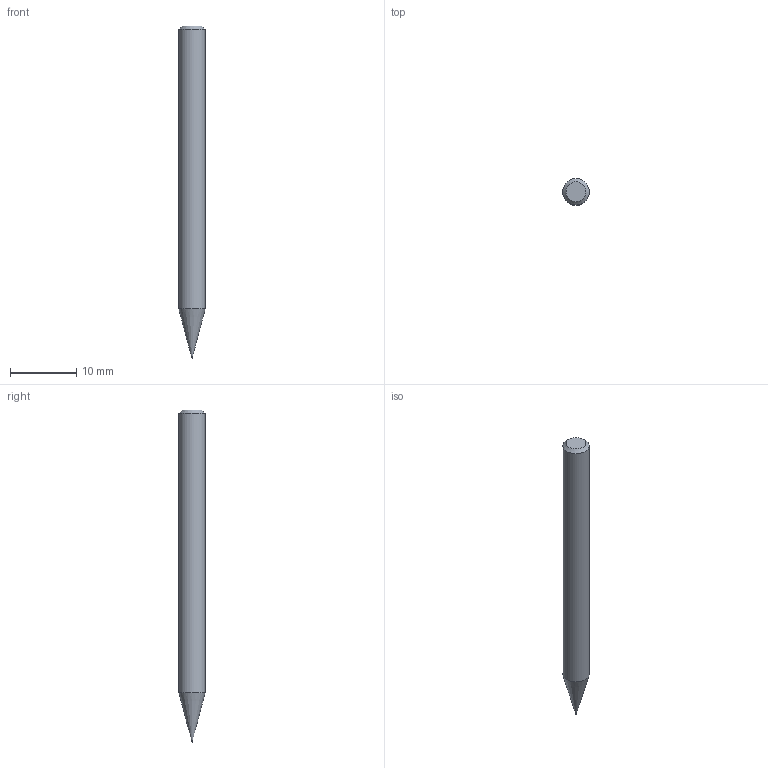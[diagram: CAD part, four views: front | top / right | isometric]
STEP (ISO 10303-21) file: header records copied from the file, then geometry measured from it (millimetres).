
FILE_DESCRIPTION((''),'2;1');
FILE_NAME('C:\Users\nsx150\AppData\Local\Temp\Mastercam 2021\LJSIDMOTM8\TEMP.step','2021-08-03T14:22:44',(''),(''),'STEP Write','Mastercam 2021 ... CNC Software, Inc.','');
FILE_SCHEMA(('AUTOMOTIVE_DESIGN'));
Length unit declared in the file: millimetre
Products named in the file (1): None
Bounding box: 4 x 4 x 50 mm (x, y, z)
Volume: 565 mm3; surface area: 592.5 mm2
Topology: 2 solids, 2 shells, 9 faces, 14 edges, 8 vertices
Faces by surface type: plane 3, cylinder 3, cone 2, sphere 1
Full cylindrical faces by diameter (mm): 0.19 x1, 0.2 x1, 4 x1
Entity records: 211 total; most frequent: DIRECTION 36, CARTESIAN_POINT 25, AXIS2_PLACEMENT_3D 18, ORIENTED_EDGE 14, EDGE_LOOP 14, STYLED_ITEM 12, ADVANCED_FACE 9, FACE_BOUND 8
